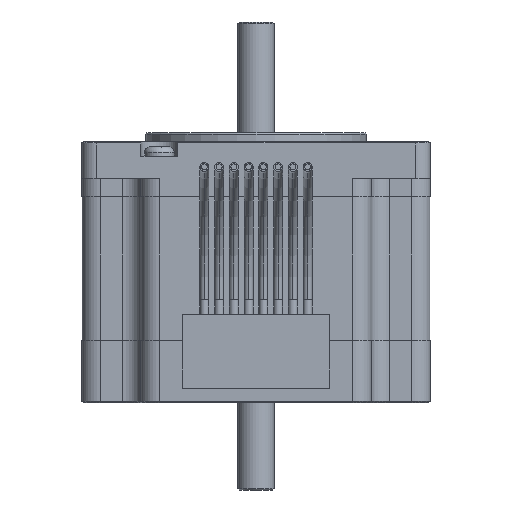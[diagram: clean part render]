
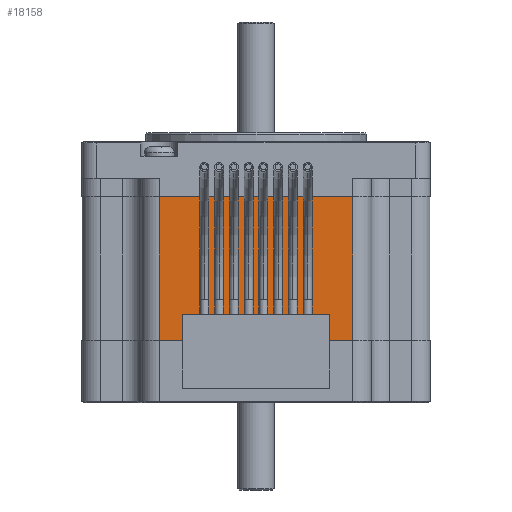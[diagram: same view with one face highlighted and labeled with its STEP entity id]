
A CAD part, front view. The second image highlights one B-rep face of the part: STEP entity #18158.
In plain terms, the highlighted planar face has unit normal (0, -1, 0).
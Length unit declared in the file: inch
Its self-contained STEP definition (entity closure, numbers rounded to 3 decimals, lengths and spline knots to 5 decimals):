
#549 = CARTESIAN_POINT ( 'NONE',  ( 0.655, -1.179, -1.347 ) ) ;
#594 = DIRECTION ( 'NONE',  ( 0., 0., 1. ) ) ;
#595 = VECTOR ( 'NONE', #594, 39.37008 ) ;
#596 = CARTESIAN_POINT ( 'NONE',  ( 0.655, -1.179, -1.347 ) ) ;
#597 = LINE ( 'NONE', #596, #595 ) ;
#666 = AXIS2_PLACEMENT_3D ( 'NONE', #730, #729, #728 ) ;
#667 = PLANE ( 'NONE',  #666 ) ;
#668 = FACE_OUTER_BOUND ( 'NONE', #18110, .T. ) ;
#720 = DIRECTION ( 'NONE',  ( -1., 0., 0. ) ) ;
#721 = VECTOR ( 'NONE', #720, 39.37008 ) ;
#722 = CARTESIAN_POINT ( 'NONE',  ( 0.655, -1.179, -1.347 ) ) ;
#723 = LINE ( 'NONE', #722, #721 ) ;
#724 = CARTESIAN_POINT ( 'NONE',  ( -0.655, -1.179, -1.347 ) ) ;
#725 = DIRECTION ( 'NONE',  ( 0., 0., 1. ) ) ;
#726 = VECTOR ( 'NONE', #725, 39.37008 ) ;
#727 = CARTESIAN_POINT ( 'NONE',  ( -0.655, -1.179, -1.347 ) ) ;
#728 = DIRECTION ( 'NONE',  ( -1., 0., 0. ) ) ;
#729 = DIRECTION ( 'NONE',  ( 0., 1., 0. ) ) ;
#730 = CARTESIAN_POINT ( 'NONE',  ( 0.655, -1.179, -1.347 ) ) ;
#731 = LINE ( 'NONE', #727, #726 ) ;
#6098 = EDGE_CURVE ( 'NONE', #6125, #6110, #15914, .T. ) ;
#6110 = VERTEX_POINT ( 'NONE', #15957 ) ;
#6125 = VERTEX_POINT ( 'NONE', #15948 ) ;
#15901 = DIRECTION ( 'NONE',  ( -1., 0., 0. ) ) ;
#15902 = VECTOR ( 'NONE', #15901, 39.37008 ) ;
#15903 = CARTESIAN_POINT ( 'NONE',  ( 0.655, -1.179, -0.375 ) ) ;
#15914 = LINE ( 'NONE', #15903, #15902 ) ;
#15948 = CARTESIAN_POINT ( 'NONE',  ( 0.655, -1.179, -0.375 ) ) ;
#15957 = CARTESIAN_POINT ( 'NONE',  ( -0.655, -1.179, -0.375 ) ) ;
#18110 = EDGE_LOOP ( 'NONE', ( #18152, #18120, #18134, #18180 ) ) ;
#18120 = ORIENTED_EDGE ( 'NONE', *, *, #18161, .F. ) ;
#18121 = VERTEX_POINT ( 'NONE', #549 ) ;
#18122 = EDGE_CURVE ( 'NONE', #18121, #6125, #597, .T. ) ;
#18134 = ORIENTED_EDGE ( 'NONE', *, *, #18162, .F. ) ;
#18152 = ORIENTED_EDGE ( 'NONE', *, *, #6098, .T. ) ;
#18158 = ADVANCED_FACE ( 'NONE', ( #668 ), #667, .F. ) ;
#18161 = EDGE_CURVE ( 'NONE', #18163, #6110, #731, .T. ) ;
#18162 = EDGE_CURVE ( 'NONE', #18121, #18163, #723, .T. ) ;
#18163 = VERTEX_POINT ( 'NONE', #724 ) ;
#18180 = ORIENTED_EDGE ( 'NONE', *, *, #18122, .T. ) ;
